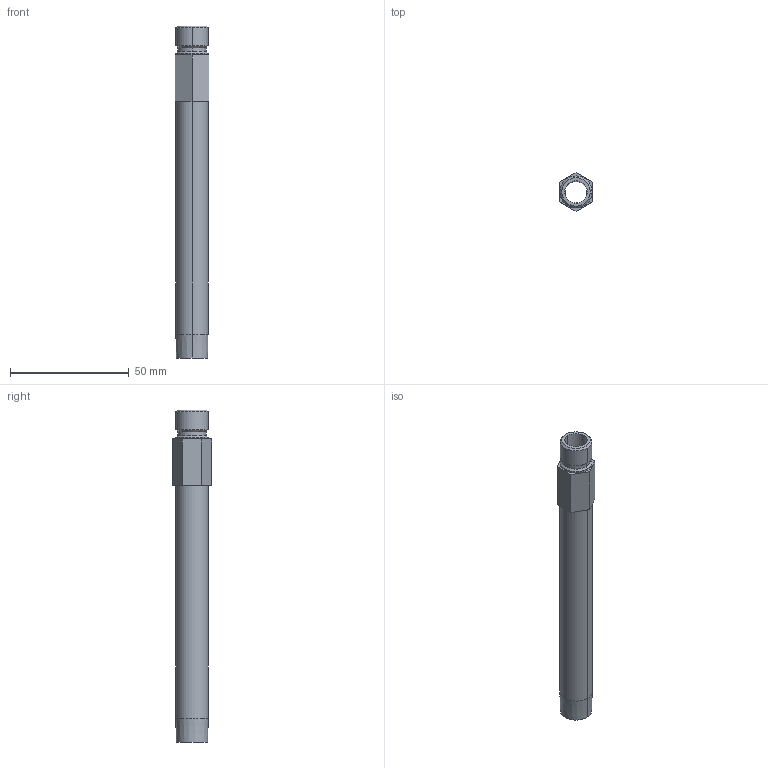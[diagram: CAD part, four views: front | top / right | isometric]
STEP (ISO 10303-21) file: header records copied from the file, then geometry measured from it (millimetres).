
FILE_DESCRIPTION (( 'STEP AP203' ), '1' );
FILE_NAME ('352L5.5-SS.step', '2023-03-09T04:43:36', ( '' ), ( '' ), 'SwSTEP 2.0', 'SolidWorks 2020', '' );
FILE_SCHEMA (( 'CONFIG_CONTROL_DESIGN' ));
Length unit declared in the file: inch
Products named in the file (1): 352L5.5-SS
Bounding box: 14.22 x 16.42 x 139.7 mm (x, y, z)
Volume: 11539.2 mm3; surface area: 10387.9 mm2
Topology: 1 solids, 1 shells, 31 faces, 66 edges, 40 vertices
Faces by surface type: cylinder 12, plane 11, cone 8
Entity records: 915 total; most frequent: DIRECTION 158, CARTESIAN_POINT 138, ORIENTED_EDGE 132, EDGE_CURVE 66, AXIS2_PLACEMENT_3D 60, VERTEX_POINT 40, LINE 38, VECTOR 38
